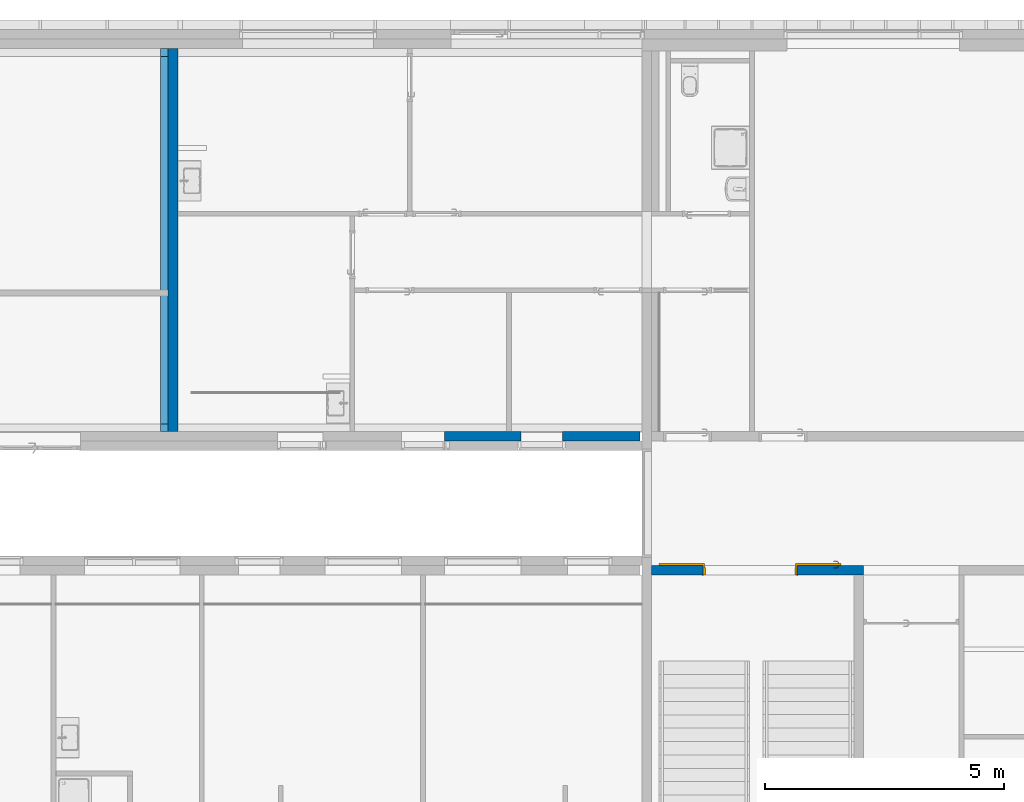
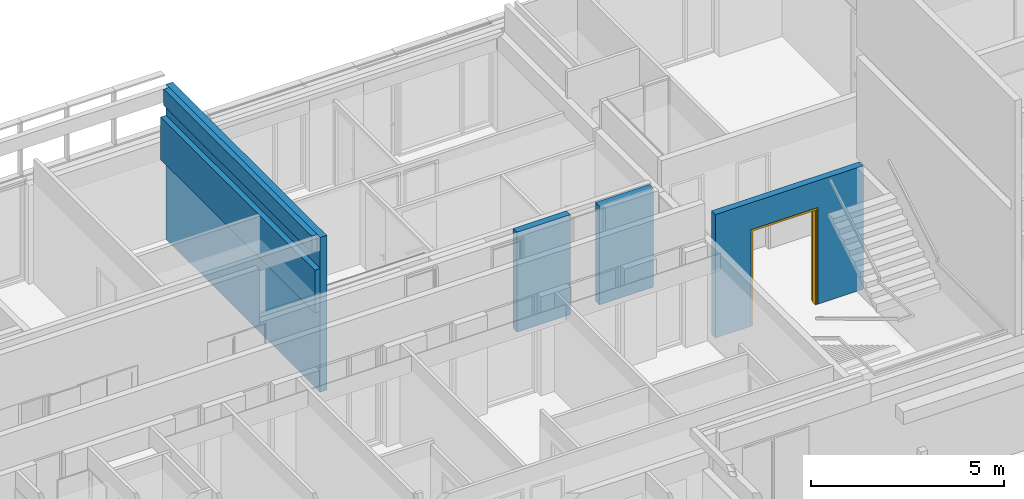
# One storey, part 130 of 240: 6 walls, 1 door, 1 opening.
"""IFC2X3 building model written with IfcOpenShell, lengths in centimetres."""

import ifcopenshell
import ifcopenshell.guid

model = None  # the IFC model being written
_history = None  # IfcOwnerHistory: only IFC2X3 demands one
_inside = {}  # id of a spatial element -> (the spatial element, [elements in it])
_under = {}  # id of a project, library or spatial element -> (it, [spatial elements below it])
_declared = {}  # id of a project -> (the project, [libraries it declares])
_typed = {}  # id of a type object -> (the type object, [elements of that type])
_made_of = {}  # id of a material, layer set ... -> (it, [elements and type objects made of it])


def new_model(schema):
    """Start an empty IFC model of exactly this schema.

    Asked for "IFC4X3", IfcOpenShell would pick the latest addendum, in which some entities
    have other attributes; the version numbers below select the first issue.
    IFC2X3 requires an IfcOwnerHistory on every rooted entity: one is made here for all.
    """
    global model, _history
    if schema == "IFC4X3":
        model = ifcopenshell.file(schema_version=(4, 3, 0, 0))
    else:
        model = ifcopenshell.file(schema=schema)
    _inside.clear()
    _under.clear()
    _declared.clear()
    _typed.clear()
    _made_of.clear()
    _history = None
    if model.schema == "IFC2X3":
        org = make("IfcOrganization", Name="unknown")
        user = make(
            "IfcPersonAndOrganization",
            ThePerson=make("IfcPerson", FamilyName="unknown"),
            TheOrganization=org,
        )
        app = make(
            "IfcApplication",
            ApplicationDeveloper=org,
            Version="unknown",
            ApplicationFullName="unknown",
            ApplicationIdentifier="unknown",
        )
        _history = make(
            "IfcOwnerHistory",
            OwningUser=user,
            OwningApplication=app,
            ChangeAction="ADDED",
            CreationDate=0,
        )
    return model


def make(cls, **values):
    """One entity of the class cls with the attributes given. An attribute that is None is left unset."""
    return model.create_entity(
        cls, **{name: value for name, value in values.items() if value is not None}
    )


def entity(cls, *values):
    """Any entity or typed value of the class cls, its attributes in the order of the schema. None: left unset."""
    e = model.create_entity(cls)
    for i, value in enumerate(values):
        if value is not None:
            e[i] = value
    return e


def rooted(cls, **values):
    """An entity with a GlobalId (a new one), such as an element, a storey or a relation."""
    return make(cls, GlobalId=ifcopenshell.guid.new(), OwnerHistory=_history, **values)


def si_unit(unit_type, name, prefix=None):
    """IfcSIUnit, for example si_unit("LENGTHUNIT", "METRE", prefix="MILLI")."""
    return make("IfcSIUnit", UnitType=unit_type, Prefix=prefix, Name=name)


def converted_unit(unit_type, name, factor, base, dimensions=None, offset=None):
    """IfcConversionBasedUnit, such as the inch: factor (a typed value) times the base unit."""
    return make(
        "IfcConversionBasedUnit"
        if offset is None
        else "IfcConversionBasedUnitWithOffset",
        ConversionOffset=offset,
        Dimensions=None
        if dimensions is None
        else entity("IfcDimensionalExponents", *dimensions),
        UnitType=unit_type,
        Name=name,
        ConversionFactor=make(
            "IfcMeasureWithUnit", ValueComponent=factor, UnitComponent=base
        ),
    )


def derived_unit(unit_type, elements):
    """IfcDerivedUnit: a product of units, each with its exponent."""
    return make(
        "IfcDerivedUnit",
        Elements=[
            make("IfcDerivedUnitElement", Unit=unit, Exponent=power)
            for unit, power in elements
        ],
        UnitType=unit_type,
    )


def assignment(units):
    """IfcUnitAssignment: the units of a project."""
    return None if units is None else make("IfcUnitAssignment", Units=units)


def point(xyz):
    """IfcCartesianPoint."""
    return None if xyz is None else make("IfcCartesianPoint", Coordinates=xyz)


def direction(xyz):
    """IfcDirection."""
    return None if xyz is None else make("IfcDirection", DirectionRatios=xyz)


def frame(location, z_axis=None, x_axis=None):
    """IfcAxis2Placement3D, a coordinate frame: its origin and axes. An axis left out is left unset."""
    return make(
        "IfcAxis2Placement3D",
        Location=point(location),
        Axis=direction(z_axis),
        RefDirection=direction(x_axis),
    )


def frame_2d(location, x_axis=None):
    """IfcAxis2Placement2D, a coordinate frame in the plane: its origin and x axis."""
    return make(
        "IfcAxis2Placement2D", Location=point(location), RefDirection=direction(x_axis)
    )


def origin():
    """The frame at (0, 0, 0) with its axes left unset."""
    return frame((0.0, 0.0, 0.0))


def place(relative_to, where):
    """IfcLocalPlacement: puts the frame where relative to a parent placement (None: the world)."""
    return make(
        "IfcLocalPlacement", PlacementRelTo=relative_to, RelativePlacement=where
    )


def context(
    kind, dimensions, precision=None, world=None, true_north=None, identifier=None
):
    """IfcGeometricRepresentationContext, for example the 3D "Model" context."""
    return make(
        "IfcGeometricRepresentationContext",
        ContextIdentifier=identifier,
        ContextType=kind,
        CoordinateSpaceDimension=dimensions,
        Precision=precision,
        WorldCoordinateSystem=world,
        TrueNorth=true_north,
    )


def subcontext(parent, identifier, kind, view, scale=None):
    """IfcGeometricRepresentationSubContext, for example "Body" below "Model"."""
    return make(
        "IfcGeometricRepresentationSubContext",
        ContextIdentifier=identifier,
        ContextType=kind,
        ParentContext=parent,
        TargetScale=scale,
        TargetView=view,
    )


def project(units=None, contexts=None):
    """IfcProject with its units and contexts."""
    return rooted(
        "IfcProject",
        Name="project",
        RepresentationContexts=contexts,
        UnitsInContext=assignment(units),
    )


def spatial(cls, under=None, at=None, **own):
    """A site, building, storey or space (cls), placed at a placement, below another one or the project."""
    s = rooted(cls, ObjectPlacement=at, **own)
    if under is not None:
        _under.setdefault(under.id(), (under, []))[1].append(s)
    return s


def polyline(points):
    """IfcPolyline through the points."""
    return make("IfcPolyline", Points=[point(p) for p in points])


def profile(cls, at=None, kind="AREA", **sizes):
    """A parametric profile (cls). Its sizes go by their IFC names, for example OverallWidth=200.0."""
    return make(cls, ProfileType=kind, Position=at, **sizes)


def rectangle(**sizes):
    """IfcRectangleProfileDef."""
    return profile("IfcRectangleProfileDef", **sizes)


def extrude(swept, where, along, depth):
    """IfcExtrudedAreaSolid: the profile swept, set in the frame where, extruded along a direction by depth."""
    return make(
        "IfcExtrudedAreaSolid",
        SweptArea=swept,
        Position=where,
        ExtrudedDirection=direction(along),
        Depth=depth,
    )


def clip(a, b, op="DIFFERENCE"):
    """IfcBooleanClippingResult: the solid a cut by the half space b."""
    return make(
        "IfcBooleanClippingResult", Operator=op, FirstOperand=a, SecondOperand=b
    )


def bounded_halfspace(plane, agree, where, boundary):
    """IfcPolygonalBoundedHalfSpace: a half space limited to a polygon's prism."""
    return make(
        "IfcPolygonalBoundedHalfSpace",
        BaseSurface=make("IfcPlane", Position=plane),
        AgreementFlag=agree,
        Position=where,
        PolygonalBoundary=boundary,
    )


def faces_of(points, faces, orient=None, outer=None):
    """IfcFace entities. A face is a list of loops; a loop is a list of indices into points, from 0.

    orient and outer hold one flag for each loop. By default every Orientation is true, the
    first loop of a face is its IfcFaceOuterBound and the others are IfcFaceBound.
    """
    made = []
    for i, loops in enumerate(faces):
        bounds = []
        for j, loop in enumerate(loops):
            is_outer = j == 0 if outer is None else outer[i][j]
            bounds.append(
                make(
                    "IfcFaceOuterBound" if is_outer else "IfcFaceBound",
                    Bound=make("IfcPolyLoop", Polygon=[points[k] for k in loop]),
                    Orientation=True if orient is None else orient[i][j],
                )
            )
        made.append(make("IfcFace", Bounds=bounds))
    return made


def faceted_brep(points, faces, orient=None, outer=None, voids=None):
    """IfcFacetedBrep: a solid bounded by flat faces; with voids (closed shells), ...WithVoids."""
    shared = [point(p) for p in points]
    hull = make("IfcClosedShell", CfsFaces=faces_of(shared, faces, orient, outer))
    if voids is None:
        return make("IfcFacetedBrep", Outer=hull)
    return make(
        "IfcFacetedBrepWithVoids",
        Outer=hull,
        Voids=[
            make(cls, CfsFaces=faces_of(shared, fs, o, b)) for cls, fs, o, b in voids
        ],
    )


def shape(context_of_items, identifier, shape_type, items):
    """IfcShapeRepresentation: the items that make up one representation, for example the "Body"."""
    return make(
        "IfcShapeRepresentation",
        ContextOfItems=context_of_items,
        RepresentationIdentifier=identifier,
        RepresentationType=shape_type,
        Items=items,
    )


def source(mapping_origin, context_of_items, identifier, shape_type, items):
    """IfcRepresentationMap: a shape defined once, which mapped items show again and again."""
    return make(
        "IfcRepresentationMap",
        MappingOrigin=mapping_origin,
        MappedRepresentation=shape(context_of_items, identifier, shape_type, items),
    )


def transform(
    local_origin,
    x_axis=None,
    y_axis=None,
    z_axis=None,
    scale=None,
    scale2=None,
    scale3=None,
    uniform=True,
):
    """IfcCartesianTransformationOperator3D, or its non-uniform kind. x_axis, y_axis, z_axis: its Axis1, 2, 3."""
    if uniform:
        return make(
            "IfcCartesianTransformationOperator3D",
            Axis1=direction(x_axis),
            Axis2=direction(y_axis),
            LocalOrigin=point(local_origin),
            Scale=scale,
            Axis3=direction(z_axis),
        )
    return make(
        "IfcCartesianTransformationOperator3DnonUniform",
        Axis1=direction(x_axis),
        Axis2=direction(y_axis),
        LocalOrigin=point(local_origin),
        Scale=scale,
        Axis3=direction(z_axis),
        Scale2=scale2,
        Scale3=scale3,
    )


def mapped(mapping_source, mapping_target):
    """IfcMappedItem: shows the shape of a source again, moved by a transform."""
    return make(
        "IfcMappedItem", MappingSource=mapping_source, MappingTarget=mapping_target
    )


def material(Name=None, Category=None):
    """IfcMaterial."""
    return make("IfcMaterial", Name=Name, Category=Category)


def material_list(materials):
    """IfcMaterialList."""
    return make("IfcMaterialList", Materials=materials)


def layer(
    of_material, thickness, ventilated=None, Name=None, Category=None, Priority=None
):
    """IfcMaterialLayer: one layer of a wall or slab, of a material (None: an air gap)."""
    return make(
        "IfcMaterialLayer",
        Material=of_material,
        LayerThickness=thickness,
        IsVentilated=ventilated,
        Name=Name,
        Category=Category,
        Priority=Priority,
    )


def layer_set(layers, Name=None):
    """IfcMaterialLayerSet."""
    return make("IfcMaterialLayerSet", MaterialLayers=layers, LayerSetName=Name)


def layer_usage(for_layer_set, set_direction, sense, offset, extent=None):
    """IfcMaterialLayerSetUsage: how a layer set lies in its element."""
    return make(
        "IfcMaterialLayerSetUsage",
        ForLayerSet=for_layer_set,
        LayerSetDirection=set_direction,
        DirectionSense=sense,
        OffsetFromReferenceLine=offset,
        ReferenceExtent=extent,
    )


def made_of(thing, what):
    """Note that an element or type object is made of a material, layer set ...; save() writes the relation."""
    if what is not None:
        _made_of.setdefault(what.id(), (what, []))[1].append(thing)
    return thing


def type_object(cls, material=None, **own):
    """A type object (cls), such as IfcWallType, which elements share."""
    return made_of(rooted(cls, **own), material)


def type_shapes(of_type, sources):
    """Give a type object the sources (RepresentationMaps) that its elements show as mapped items."""
    of_type.RepresentationMaps = sources


def element(
    cls,
    number,
    at=None,
    inside=None,
    cuts=None,
    type_object=None,
    material=None,
    context=None,
    identifier="Body",
    shape_type=None,
    held_by="IfcProductDefinitionShape",
    body=None,
    shapes=None,
    **own,
):
    """One element of the class cls, such as IfcWall. Its Tag is "e" and its number.

    at: its placement. inside: the storey or other place that contains it. cuts: it is an
    opening in that element (IfcRelVoidsElement). A single representation is given by context,
    identifier, shape_type and body (its items); several are given by shapes. held_by: the class
    of the entity that holds the representations. save() writes the other relations.
    """
    e = rooted(cls, Tag="e%d" % number, ObjectPlacement=at, **own)
    if body is not None:
        shapes = [shape(context, identifier, shape_type, body)]
    if shapes is not None:
        e.Representation = make(held_by, Representations=shapes)
    if inside is not None:
        _inside.setdefault(inside.id(), (inside, []))[1].append(e)
    if cuts is not None:
        rooted(
            "IfcRelVoidsElement", RelatingBuildingElement=cuts, RelatedOpeningElement=e
        )
    if type_object is not None:
        _typed.setdefault(type_object.id(), (type_object, []))[1].append(e)
    return made_of(e, material)


def fill(opening, filler):
    """IfcRelFillsElement: the door or window that sits in an opening."""
    return rooted(
        "IfcRelFillsElement",
        RelatingOpeningElement=opening,
        RelatedBuildingElement=filler,
    )


def aggregate(whole, parts):
    """IfcRelAggregates: a whole, such as a stair, and the parts it consists of."""
    return rooted("IfcRelAggregates", RelatingObject=whole, RelatedObjects=parts)


def save(model, path):
    """Write the relations noted so far, then the file.

    IfcRelAggregates (storeys below a building ...), IfcRelContainedInSpatialStructure (elements
    in a storey), IfcRelDefinesByType, IfcRelAssociatesMaterial and IfcRelDeclares: one each for
    every whole, place, type object, material and project.
    """
    for whole, parts in _under.values():
        aggregate(whole, parts)
    for where, things in _inside.values():
        rooted(
            "IfcRelContainedInSpatialStructure",
            RelatedElements=things,
            RelatingStructure=where,
        )
    for kind, things in _typed.values():
        rooted("IfcRelDefinesByType", RelatedObjects=things, RelatingType=kind)
    for what, things in _made_of.values():
        rooted("IfcRelAssociatesMaterial", RelatedObjects=things, RelatingMaterial=what)
    for by, libraries in _declared.values():
        rooted("IfcRelDeclares", RelatingContext=by, RelatedDefinitions=libraries)
    model.write(path)


model = new_model("IFC2X3")

# Units and contexts
model_context = context("Model", 3, precision=0.001, world=origin(), true_north=direction((6.12303176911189e-17, 1.0)))
body_context = subcontext(model_context, "Body", "Model", "MODEL_VIEW")
ifc_project = project(units=[si_unit("LENGTHUNIT", "METRE", prefix="CENTI"), si_unit("AREAUNIT", "SQUARE_METRE"), si_unit("VOLUMEUNIT", "CUBIC_METRE"), converted_unit("PLANEANGLEUNIT", "DEGREE", entity("IfcRatioMeasure", 0.0174532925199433), si_unit("PLANEANGLEUNIT", "RADIAN"), dimensions=[0, 0, 0, 0, 0, 0, 0]), si_unit("MASSUNIT", "GRAM", prefix="KILO"), derived_unit("MASSDENSITYUNIT", [(si_unit("MASSUNIT", "GRAM", prefix="KILO"), 1), (si_unit("LENGTHUNIT", "METRE"), -3)]), si_unit("TIMEUNIT", "SECOND"), si_unit("FREQUENCYUNIT", "HERTZ"), si_unit("THERMODYNAMICTEMPERATUREUNIT", "DEGREE_CELSIUS"), derived_unit("THERMALTRANSMITTANCEUNIT", [(si_unit("MASSUNIT", "GRAM", prefix="KILO"), 1), (si_unit("THERMODYNAMICTEMPERATUREUNIT", "KELVIN"), -1), (si_unit("TIMEUNIT", "SECOND"), -3)]), derived_unit("VOLUMETRICFLOWRATEUNIT", [(si_unit("LENGTHUNIT", "METRE"), 3), (si_unit("TIMEUNIT", "SECOND"), -1)]), si_unit("ELECTRICCURRENTUNIT", "AMPERE"), si_unit("ELECTRICVOLTAGEUNIT", "VOLT"), si_unit("POWERUNIT", "WATT"), si_unit("FORCEUNIT", "NEWTON", prefix="KILO"), si_unit("ILLUMINANCEUNIT", "LUX"), si_unit("LUMINOUSFLUXUNIT", "LUMEN"), si_unit("LUMINOUSINTENSITYUNIT", "CANDELA"), derived_unit("USERDEFINED", [(si_unit("MASSUNIT", "GRAM", prefix="KILO"), -1), (si_unit("LENGTHUNIT", "METRE"), -2), (si_unit("TIMEUNIT", "SECOND"), 3), (si_unit("LUMINOUSFLUXUNIT", "LUMEN"), 1)]), derived_unit("LINEARVELOCITYUNIT", [(si_unit("LENGTHUNIT", "METRE"), 1), (si_unit("TIMEUNIT", "SECOND"), -1)]), si_unit("PRESSUREUNIT", "PASCAL"), derived_unit("USERDEFINED", [(si_unit("LENGTHUNIT", "METRE"), -2), (si_unit("MASSUNIT", "GRAM", prefix="KILO"), 1), (si_unit("TIMEUNIT", "SECOND"), -2)])], contexts=[model_context])

# Site, building, storey
site_placement = place(None, frame((-2781.94577612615, 7442.24238424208, 0.0)))
site = spatial("IfcSite", under=ifc_project, at=site_placement, Name="Default", CompositionType="ELEMENT")
building_placement = place(site_placement, origin())
building = spatial("IfcBuilding", under=site, at=building_placement, CompositionType="ELEMENT")
storey_placement = place(building_placement, origin())
storey = spatial("IfcBuildingStorey", under=building, at=storey_placement, Name="N00 - COO", CompositionType="ELEMENT", Elevation=0.0)

# Wall, opening, door
ifc_material_1 = material(Name="01 - Maçonnerie")
ifc_layer_1 = layer(ifc_material_1, 20.0)
ifc_layer_set_1 = layer_set([ifc_layer_1], Name="Mur de base:04 - Structure - béton - 20cm")
ifc_layer_usage_1 = layer_usage(ifc_layer_set_1, "AXIS2", "NEGATIVE", 10.0)
wall_type_1 = type_object("IfcWallType", Name="Mur de base:04 - Structure - béton - 20cm", PredefinedType="STANDARD", material=ifc_layer_set_1)
wall_1_placement = place(building_placement, frame((-8409.49987766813, -1100.0, 0.0)))
wall_1 = element("IfcWallStandardCase", 1, at=wall_1_placement, inside=storey, type_object=wall_type_1, material=ifc_layer_usage_1, Name="Mur de base:04 - Structure - béton - 20cm", ObjectType="Mur de base:04 - Structure - béton - 20cm", context=body_context, shape_type="Clipping", body=[
    clip(extrude(rectangle(XDim=443.000000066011, YDim=19.9999999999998, at=frame_2d((221.500000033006, 6.75015598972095e-14), x_axis=(-1.0, 0.0))), origin(), (0.0, 0.0, 1.0), 391.0), bounded_halfspace(frame((0.0, -10.0, 391.0), z_axis=(0.0, 0.0, -1.0), x_axis=(0.0, 1.0, 0.0)), True, frame((0.0, -10.0, 391.0)), polyline([(0.0, 0.0), (423.0, 0.0), (443.0, 0.0), (443.0, 20.0), (0.0, 20.0), (0.0, 0.0)]))),
])
opening_placement = place(wall_1_placement, frame((107.500000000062, -10.0, 0.0)))
opening = element("IfcOpeningElement", 2, at=opening_placement, cuts=wall_1, Name="Int. Double:PP (1.90m x 3.00m):1", ObjectType="Opening", context=body_context, shape_type="SweptSolid", body=[
    extrude(rectangle(XDim=304.500000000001, YDim=197.0, at=frame_2d((152.250000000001, 98.5), x_axis=(1.0, 0.0))), frame((0.0, 0.0, 0.0), z_axis=(0.0, 1.0, 0.0), x_axis=(0.0, 0.0, 1.0)), (0.0, 0.0, 1.0), 20.0),
])
ifc_material_2 = material(Name="Bois - Panneau de porte")
ifc_material_3 = material(Name="Finition Peinture - Blanc satiné")
ifc_material_4 = material(Name="Bois - Cadre de porte")
ifc_material_list_1 = material_list([ifc_material_2, ifc_material_3, ifc_material_4])
ifc_material_list_2 = material_list([ifc_material_2, ifc_material_3, ifc_material_4])
door_style = type_object("IfcDoorStyle", Name="PP (1.90m x 3.00m)", ConstructionType="NOTDEFINED", OperationType="DOUBLE_DOOR_SINGLE_SWING", ParameterTakesPrecedence=False, Sizeable=False, material=ifc_material_list_2)
shared_shape = source(origin(), body_context, "Body", "Brep", [
    faceted_brep([(295.500000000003, -4.0, 301.0), (200.500000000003, -4.0, 301.0), (200.500000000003, -4.0, 0.0), (295.500000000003, -4.0, 0.0), (295.500000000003, 0.0, 301.0), (295.500000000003, 0.0, 0.0), (200.500000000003, 0.0, 0.0), (200.500000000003, 0.0, 301.0)], [[[0, 1, 2, 3]], [[4, 5, 6, 7]], [[1, 0, 4, 7]], [[2, 1, 7, 6]], [[3, 2, 6, 5]], [[0, 3, 5, 4]]]),
    faceted_brep([(-80.4999999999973, 0.499999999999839, 87.0), (-80.4999999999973, 0.499999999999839, 108.0), (-79.5352761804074, 0.499999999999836, 108.399601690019), (-78.4999999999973, 0.499999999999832, 108.535898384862), (-77.4647238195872, 0.499999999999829, 108.399601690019), (-76.4999999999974, 0.499999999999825, 108.0), (-76.4999999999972, 0.499999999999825, 87.0), (-77.4647238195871, 0.499999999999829, 86.6003983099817), (-78.4999999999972, 0.499999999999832, 86.464101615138), (-79.5352761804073, 0.499999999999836, 86.6003983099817), (-80.4999999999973, 0.0, 108.0), (-80.4999999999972, 0.0, 87.0), (-79.5352761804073, 0.0, 86.6003983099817), (-78.4999999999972, 0.0, 86.464101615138), (-77.4647238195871, 0.0, 86.6003983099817), (-76.4999999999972, 0.0, 87.0), (-76.4999999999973, 0.0, 108.0), (-77.4647238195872, 0.0, 108.399601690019), (-78.4999999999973, 0.0, 108.535898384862), (-79.5352761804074, 0.0, 108.399601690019)], [[[0, 1, 2, 3, 4, 5, 6, 7, 8, 9]], [[10, 11, 12, 13, 14, 15, 16, 17, 18, 19]], [[9, 12, 11, 0]], [[8, 13, 12, 9]], [[7, 14, 13, 8]], [[7, 6, 15, 14]], [[15, 6, 5, 16]], [[4, 17, 16, 5]], [[3, 18, 17, 4]], [[2, 19, 18, 3]], [[2, 1, 10, 19]], [[11, 10, 1, 0]]]),
    faceted_brep([(-80.4999999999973, -4.0, 87.0), (-80.4999999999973, -4.0, 108.0), (-79.5352761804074, -4.0, 108.399601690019), (-78.4999999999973, -4.0, 108.535898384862), (-77.4647238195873, -4.0, 108.399601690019), (-76.4999999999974, -4.0, 108.0), (-76.4999999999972, -4.0, 87.0), (-77.4647238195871, -4.0, 86.6003983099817), (-78.4999999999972, -4.0, 86.464101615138), (-79.5352761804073, -4.0, 86.6003983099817), (-78.4999999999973, -4.50000000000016, 108.535898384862), (-79.5352761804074, -4.50000000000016, 108.399601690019), (-80.4999999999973, -4.50000000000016, 108.0), (-80.4999999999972, -4.50000000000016, 87.0), (-79.5352761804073, -4.50000000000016, 86.6003983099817), (-78.4999999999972, -4.50000000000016, 86.464101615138), (-77.4647238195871, -4.50000000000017, 86.6003983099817), (-76.4999999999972, -4.50000000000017, 87.0), (-76.4999999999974, -4.50000000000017, 108.0), (-77.4647238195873, -4.50000000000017, 108.399601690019)], [[[0, 1, 2, 3, 4, 5, 6, 7, 8, 9]], [[10, 11, 12, 13, 14, 15, 16, 17, 18, 19]], [[4, 19, 18, 5]], [[3, 10, 19, 4]], [[2, 11, 10, 3]], [[2, 1, 12, 11]], [[13, 12, 1, 0]], [[9, 14, 13, 0]], [[8, 15, 14, 9]], [[7, 16, 15, 8]], [[7, 6, 17, 16]], [[17, 6, 5, 18]]]),
    faceted_brep([(-78.2974701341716, 0.499999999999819, 100.778044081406), (-78.7025298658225, 0.49999999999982, 100.778044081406), (-79.0999999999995, 0.499999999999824, 100.699999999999), (-79.1000000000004, 0.499999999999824, 99.2999999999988), (-78.7025298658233, 0.49999999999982, 99.221955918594), (-78.2974701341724, 0.499999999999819, 99.2219559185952), (-77.8999999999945, 0.499999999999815, 99.3000000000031), (-77.8999999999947, 0.499999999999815, 100.7), (-78.7025298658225, 3.10045754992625, 100.778044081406), (-79.0999999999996, 3.26509507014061, 100.7), (-78.2974701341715, 2.93267631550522, 100.778044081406), (-76.9298602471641, 4.30028620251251, 100.778044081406), (-77.0976414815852, 4.70534593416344, 100.778044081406), (-77.8999999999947, 2.76803879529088, 100.7), (-77.8999999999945, 2.76803879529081, 99.3000000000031), (-78.2974701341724, 2.93267631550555, 99.2219559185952), (-78.7025298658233, 3.10045754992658, 99.221955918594), (-77.0976414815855, 4.70534593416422, 99.221955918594), (-76.9298602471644, 4.3002862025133, 99.2219559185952), (-79.1000000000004, 3.26509507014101, 99.2999999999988), (-77.2622790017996, 5.10281606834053, 100.7), (-76.7652227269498, 3.9028160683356, 100.7), (-76.7652227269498, 3.90281606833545, 99.3000000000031), (-77.2622790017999, 5.10281606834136, 99.2999999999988), (-68.4981359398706, 5.10281606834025, 100.7), (-68.4981359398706, 4.70534593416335, 100.778044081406), (-68.4981359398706, 4.30028620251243, 100.778044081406), (-68.4981359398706, 3.90281606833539, 100.699999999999), (-68.4981359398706, 3.90281606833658, 99.3000000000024), (-68.4981359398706, 4.30028620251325, 99.2219559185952), (-68.4981359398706, 4.70534593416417, 99.221955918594), (-68.4981359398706, 5.10281606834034, 99.2999999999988), (-72.7139980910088, 4.50281606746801, 100.78786867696), (-73.2692302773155, 5.10281606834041, 100.7), (-72.6316793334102, 3.90281606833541, 100.7), (-72.6316793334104, 3.90281606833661, 99.3000000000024), (-72.7139981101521, 4.50281607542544, 99.2121313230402), (-73.2692310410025, 5.10281606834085, 99.2999999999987)], [[[0, 1, 2, 3, 4, 5, 6, 7]], [[2, 1, 8, 9]], [[1, 0, 10, 11, 12, 8]], [[0, 7, 13, 10]], [[14, 13, 7, 6]], [[5, 15, 14, 6]], [[5, 4, 16, 17, 18, 15]], [[3, 19, 16, 4]], [[9, 19, 3, 2]], [[9, 8, 12, 20]], [[10, 13, 21, 11]], [[22, 21, 13, 14]], [[14, 15, 18, 22]], [[16, 19, 23, 17]], [[20, 23, 19, 9]], [[24, 25, 26, 27, 28, 29, 30, 31]], [[32, 25, 33]], [[33, 25, 24]], [[33, 20, 12]], [[11, 34, 32]], [[34, 11, 21]], [[27, 26, 34]], [[32, 26, 25]], [[32, 34, 26]], [[32, 33, 12]], [[11, 32, 12]], [[21, 22, 35, 28, 27, 34]], [[36, 29, 35]], [[30, 36, 37]], [[18, 35, 22]], [[29, 28, 35]], [[30, 37, 31]], [[37, 17, 23]], [[36, 17, 37]], [[36, 18, 17]], [[36, 35, 18]], [[29, 36, 30]], [[23, 20, 33, 24, 31, 37]]]),
    faceted_brep([(-78.2974701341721, -4.50000000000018, 99.2219559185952), (-78.702529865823, -4.50000000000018, 99.221955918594), (-79.0999999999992, -4.50000000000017, 99.2999999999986), (-79.0999999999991, -4.50000000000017, 100.7), (-78.7025298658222, -4.50000000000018, 100.778044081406), (-78.2974701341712, -4.50000000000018, 100.778044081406), (-77.8999999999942, -4.50000000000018, 100.7), (-77.8999999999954, -4.50000000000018, 99.3000000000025), (-77.8999999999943, -6.74852045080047, 100.7), (-77.8999999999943, -6.74852045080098, 99.3000000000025), (-78.2974701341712, -6.91315797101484, 100.778044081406), (-78.7025298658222, -7.08093920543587, 100.778044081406), (-77.0838906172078, -8.69957845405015, 100.778044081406), (-76.9161093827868, -8.29451872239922, 100.778044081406), (-79.0999999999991, -7.2455767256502, 100.7), (-79.0999999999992, -7.24557672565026, 99.2999999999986), (-78.7025298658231, -7.08093920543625, 99.221955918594), (-78.2974701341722, -6.91315797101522, 99.2219559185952), (-76.9161093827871, -8.29451872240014, 99.2219559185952), (-77.0838906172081, -8.69957845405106, 99.221955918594), (-76.7514718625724, -7.89704858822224, 100.7), (-76.7514718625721, -7.8970485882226, 99.3000000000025), (-77.2485281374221, -9.09704858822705, 100.7), (-77.2485281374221, -9.09704858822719, 99.2999999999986), (-68.4954216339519, -8.29451872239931, 100.778044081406), (-68.4954216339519, -8.69957845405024, 100.778044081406), (-68.4954216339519, -9.09704858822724, 100.7), (-68.4954216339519, -9.09704858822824, 99.2999999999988), (-68.4954216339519, -8.69957845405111, 99.221955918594), (-68.4954216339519, -8.29451872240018, 99.2219559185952), (-68.4954216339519, -7.89704858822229, 99.3000000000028), (-68.4954216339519, -7.89704858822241, 100.7), (-72.6234467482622, -7.89704858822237, 100.7), (-72.623447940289, -7.89704858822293, 99.3000000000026), (-72.7057655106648, -8.49704858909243, 100.78786867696), (-73.2554794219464, -9.09704858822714, 100.7), (-73.2554795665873, -9.09704858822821, 99.2999999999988), (-72.7057654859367, -8.49704858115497, 99.2121313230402)], [[[0, 1, 2, 3, 4, 5, 6, 7]], [[8, 9, 7, 6]], [[5, 10, 8, 6]], [[5, 4, 11, 12, 13, 10]], [[3, 14, 11, 4]], [[14, 3, 2, 15]], [[2, 1, 16, 15]], [[1, 0, 17, 18, 19, 16]], [[0, 7, 9, 17]], [[20, 21, 9, 8]], [[8, 10, 13, 20]], [[14, 22, 12, 11]], [[23, 22, 14, 15]], [[15, 16, 19, 23]], [[17, 9, 21, 18]], [[24, 25, 26, 27, 28, 29, 30, 31]], [[21, 20, 32, 31, 30, 33]], [[34, 24, 32]], [[25, 34, 35]], [[13, 32, 20]], [[24, 31, 32]], [[25, 35, 26]], [[35, 12, 22]], [[34, 12, 35]], [[34, 13, 12]], [[34, 32, 13]], [[24, 34, 25]], [[22, 23, 36, 27, 26, 35]], [[37, 28, 36]], [[36, 28, 27]], [[36, 23, 19]], [[18, 33, 37]], [[33, 18, 21]], [[30, 29, 33]], [[37, 29, 28]], [[37, 33, 29]], [[37, 36, 19]], [[18, 37, 19]]]),
    faceted_brep([(-84.4999999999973, -4.0, 301.0), (-84.4999999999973, -4.0, 0.0), (10.5000000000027, -4.0, 0.0), (10.5000000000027, -4.0, 301.0), (-84.4999999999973, 0.0, 301.0), (10.5000000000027, 0.0, 301.0), (10.5000000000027, 0.0, 0.0), (-84.4999999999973, 0.0, 0.0)], [[[0, 1, 2, 3]], [[4, 5, 6, 7]], [[3, 5, 4, 0]], [[2, 6, 5, 3]], [[1, 7, 6, 2]], [[0, 4, 7, 1]]]),
    faceted_brep([(204.0, 0.0, 0.0), (200.500000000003, 0.0, 0.0), (200.500000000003, 4.0, 0.0), (199.0, 4.0, 0.0), (199.0, 20.0, 0.0), (204.0, 20.0, 0.0), (204.0, 20.0, 304.500000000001), (204.0, 0.0, 304.500000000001), (199.0, 20.0, 299.5), (12.0, 20.0, 299.5), (12.0, 20.0, 0.0), (7.0, 20.0, 0.0), (7.0, 20.0, 304.500000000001), (199.0, 4.0, 299.5), (200.500000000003, 4.0, 301.0), (10.5000000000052, 4.0, 301.0), (10.5000000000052, 4.0, 0.0), (12.0, 4.0, 0.0), (12.0, 4.0, 299.5), (200.500000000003, 0.0, 301.0), (7.0, 0.0, 304.500000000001), (7.0, 0.0, 0.0), (10.5000000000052, 0.0, 0.0), (10.5000000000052, 0.0, 301.0)], [[[0, 1, 2, 3, 4, 5]], [[5, 6, 7, 0]], [[4, 8, 9, 10, 11, 12, 6, 5]], [[3, 13, 8, 4]], [[2, 14, 15, 16, 17, 18, 13, 3]], [[1, 19, 14, 2]], [[0, 7, 20, 21, 22, 23, 19, 1]], [[12, 11, 21, 20]], [[21, 11, 10, 17, 16, 22]], [[18, 17, 10, 9]], [[23, 22, 16, 15]], [[6, 12, 20, 7]], [[13, 18, 9, 8]], [[19, 23, 15, 14]]]),
    faceted_brep([(202.500000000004, 20.0, 0.0), (202.500000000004, 20.5000000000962, 0.0), (205.500000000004, 20.5000000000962, 0.0), (205.500000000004, 20.0, 0.0), (205.500000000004, 20.0, 306.0), (5.50000000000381, 20.0, 306.0), (5.50000000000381, 20.0, 0.0), (8.50000000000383, 20.0, 0.0), (8.50000000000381, 20.0, 303.0), (202.500000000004, 20.0, 303.0), (205.500000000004, 20.5000000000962, 306.0), (202.500000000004, 20.5000000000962, 303.0), (8.50000000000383, 20.5000000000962, 303.0), (8.50000000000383, 20.5000000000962, 0.0), (5.50000000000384, 20.5000000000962, 0.0), (5.50000000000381, 20.5000000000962, 306.0)], [[[0, 1, 2, 3]], [[3, 4, 5, 6, 7, 8, 9, 0]], [[2, 10, 4, 3]], [[1, 11, 12, 13, 14, 15, 10, 2]], [[0, 9, 11, 1]], [[8, 7, 13, 12]], [[7, 6, 14, 13]], [[15, 14, 6, 5]], [[9, 8, 12, 11]], [[10, 15, 5, 4]]]),
    faceted_brep([(205.500000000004, -0.500000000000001, 0.0), (205.500000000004, -0.500000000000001, 306.0), (5.50000000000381, -0.500000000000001, 306.0), (5.50000000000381, -0.500000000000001, 0.0), (8.50000000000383, -0.500000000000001, 0.0), (8.50000000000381, -0.500000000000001, 303.0), (202.500000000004, -0.500000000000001, 303.0), (202.500000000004, -0.500000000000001, 0.0), (205.500000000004, 0.0, 0.0), (205.500000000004, 0.0, 306.0), (202.500000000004, 0.0, 0.0), (202.500000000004, 0.0, 303.0), (8.50000000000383, 0.0, 303.0), (8.50000000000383, 0.0, 0.0), (5.50000000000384, 0.0, 0.0), (5.50000000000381, 0.0, 306.0)], [[[0, 1, 2, 3, 4, 5, 6, 7]], [[8, 9, 1, 0]], [[10, 11, 12, 13, 14, 15, 9, 8]], [[7, 6, 11, 10]], [[5, 4, 13, 12]], [[15, 14, 3, 2]], [[6, 5, 12, 11]], [[9, 15, 2, 1]], [[4, 3, 14, 13]], [[7, 10, 8, 0]]]),
])
type_shapes(door_style, [shared_shape])
door_placement = place(opening_placement, frame((204.0, 20.0, 0.0), z_axis=(0.0, 0.0, 1.0), x_axis=(-1.0, 0.0, 0.0)))
door = element("IfcDoor", 3, at=door_placement, inside=storey, type_object=door_style, material=ifc_material_list_1, Name="Int. Double:PP (1.90m x 3.00m)", ObjectType="Int. Double:PP (1.90m x 3.00m)", OverallHeight=304.500000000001, OverallWidth=197.0, context=body_context, shape_type="MappedRepresentation", body=[
    mapped(shared_shape, transform((0.0, 0.0, 0.0), scale=1.0)),
])
fill(opening, door)

# Walls
ifc_layer_usage_2 = layer_usage(ifc_layer_set_1, "AXIS2", "NEGATIVE", 10.0)
wall_2_placement = place(building_placement, frame((-9409.49987766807, 10.0, 0.0), z_axis=(0.0, 0.0, 1.0), x_axis=(0.0, -1.0, 0.0)))
element("IfcWallStandardCase", 4, at=wall_2_placement, inside=storey, type_object=wall_type_1, material=ifc_layer_usage_2, Name="Mur de base:04 - Structure - béton - 20cm", ObjectType="Mur de base:04 - Structure - béton - 20cm", context=body_context, shape_type="SweptSolid", body=[
    extrude(rectangle(XDim=800.048500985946, YDim=20.0000000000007, at=frame_2d((420.024250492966, -8.22453216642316e-13), x_axis=(-1.0, 0.0))), origin(), (0.0, 0.0, 1.0), 490.0),
])
ifc_layer_usage_3 = layer_usage(ifc_layer_set_1, "AXIS2", "NEGATIVE", 10.0)
wall_3_placement = place(building_placement, frame((-8594.99987766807, -820.048500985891, 0.0)))
element("IfcWallStandardCase", 5, at=wall_3_placement, inside=storey, type_object=wall_type_1, material=ifc_layer_usage_3, Name="Mur de base:04 - Structure - béton - 20cm", ObjectType="Mur de base:04 - Structure - béton - 20cm", context=body_context, shape_type="SweptSolid", body=[
    extrude(rectangle(XDim=161.5, YDim=20.0, at=frame_2d((80.7499999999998, 2.48689957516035e-14), x_axis=(-1.0, 0.0))), origin(), (0.0, 0.0, 1.0), 312.999999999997),
])
ifc_layer_usage_4 = layer_usage(ifc_layer_set_1, "AXIS2", "NEGATIVE", 10.0)
wall_4_placement = place(building_placement, frame((-8841.99987766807, -820.048500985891, 0.0)))
element("IfcWallStandardCase", 6, at=wall_4_placement, inside=storey, type_object=wall_type_1, material=ifc_layer_usage_4, Name="Mur de base:04 - Structure - béton - 20cm", ObjectType="Mur de base:04 - Structure - béton - 20cm", context=body_context, shape_type="SweptSolid", body=[
    extrude(rectangle(XDim=159.999999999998, YDim=20.0, at=frame_2d((79.9999999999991, 2.39808173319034e-14), x_axis=(-1.0, 0.0))), origin(), (0.0, 0.0, 1.0), 316.500000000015),
])
ifc_material_5 = material(Name="00 - Isolant")
ifc_layer_2 = layer(ifc_material_5, 16.0)
ifc_layer_set_2 = layer_set([ifc_layer_2], Name="Mur de base:04 - retour isolation acrotère - ITE 16cm")
ifc_layer_usage_5 = layer_usage(ifc_layer_set_2, "AXIS2", "NEGATIVE", 8.0)
wall_type_2 = type_object("IfcWallType", Name="Mur de base:04 - retour isolation acrotère - ITE 16cm", PredefinedType="STANDARD", material=ifc_layer_set_2)
wall_5_placement = place(building_placement, frame((-9427.49987766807, -10.0, 257.0), z_axis=(0.0, 0.0, 1.0), x_axis=(0.0, -1.0, 0.0)))
element("IfcWallStandardCase", 7, at=wall_5_placement, inside=storey, type_object=wall_type_2, material=ifc_layer_usage_5, Name="Mur de base:04 - retour isolation acrotère - ITE 16cm", ObjectType="Mur de base:04 - retour isolation acrotère - ITE 16cm", context=body_context, shape_type="SweptSolid", body=[
    extrude(rectangle(XDim=800.048500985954, YDim=15.9999999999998, at=frame_2d((400.024250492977, 8.4821039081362e-14), x_axis=(-1.0, 0.0))), origin(), (0.0, 0.0, 1.0), 135.0),
])
ifc_layer_usage_6 = layer_usage(ifc_layer_set_2, "AXIS2", "NEGATIVE", 8.0)
wall_6_placement = place(storey_placement, frame((-9427.49987766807, -794.048500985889, 438.0), z_axis=(0.0, 0.0, 1.0), x_axis=(0.0, 1.0, 0.0)))
element("IfcWallStandardCase", 8, at=wall_6_placement, inside=storey, type_object=wall_type_2, material=ifc_layer_usage_6, Name="Mur de base:04 - retour isolation acrotère - ITE 16cm", ObjectType="Mur de base:04 - retour isolation acrotère - ITE 16cm", context=body_context, shape_type="SweptSolid", body=[
    extrude(rectangle(XDim=768.04850098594, YDim=15.9999999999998, at=frame_2d((384.02425049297, -3.46389583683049e-14), x_axis=(-1.0, 0.0))), origin(), (0.0, 0.0, 1.0), 52.0000000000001),
])

save(model, "model.ifc")
